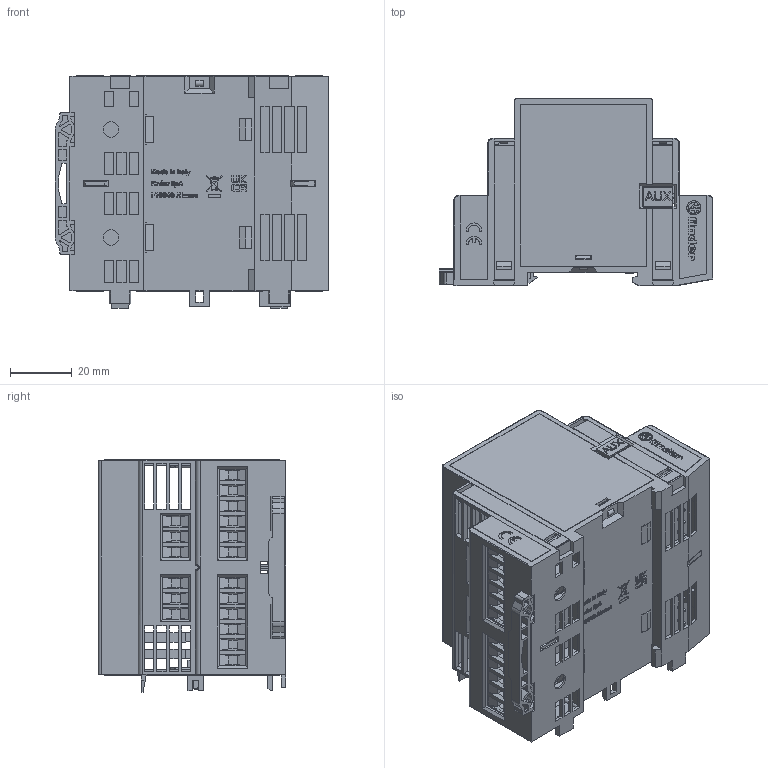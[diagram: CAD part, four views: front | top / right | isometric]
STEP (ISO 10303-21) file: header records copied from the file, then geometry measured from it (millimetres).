
FILE_DESCRIPTION(/* description */ ('Unknown'),/* implementation_level */ '2;1');
FILE_NAME(/* name */ '8A26',/* time_stamp */ '2024-09-13T12:25:44+02:00',/* author */ ('Unknown'),/* organization */ ('Unknown'),/* preprocessor_version */ 'ST-DEVELOPER v18.102',/* originating_system */ 'Solid Edge',/* authorisation */ 'Unknown');
FILE_SCHEMA (('AUTOMOTIVE_DESIGN {1 0 10303 214 3 1 1}'));
Products named in the file (1): 8A26
Bounding box: 88.85 x 60.8 x 75.5 mm (x, y, z)
Volume: 67924.1 mm3; surface area: 94547.9 mm2
Topology: 1 solids, 1 shells, 5264 faces, 14813 edges, 9788 vertices
Faces by surface type: plane 4475, cylinder 667, bspline 68, cone 36, torus 17, sphere 1
Full cylindrical faces by diameter (mm): 0.2 x1, 0.222 x3, 0.364 x1, 0.374 x2, 0.4 x1, 0.429 x5, 0.6 x6, 1.5 x2, 2.6 x28, 2.85 x28, 3 x4, 3.8 x28, 4.564 x1, 5 x2
Entity records: 207198 total; most frequent: CARTESIAN_POINT 34296, ORIENTED_EDGE 29114, DIRECTION 25926, EDGE_CURVE 14557, LINE 12532, VECTOR 12532, VERTEX_POINT 9685, AXIS2_PLACEMENT_3D 6697
